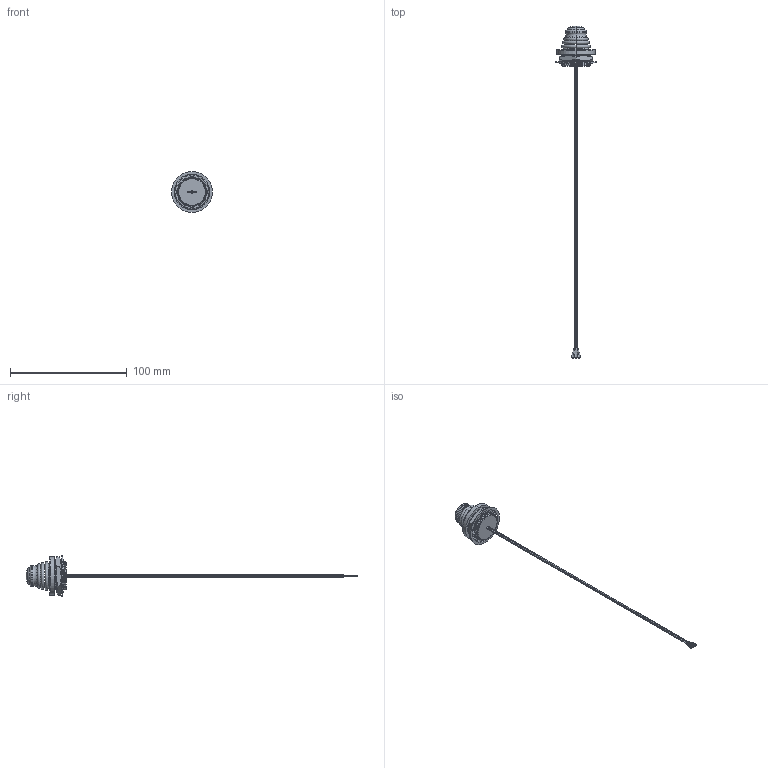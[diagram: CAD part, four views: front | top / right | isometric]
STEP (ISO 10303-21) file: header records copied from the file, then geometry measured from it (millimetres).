
FILE_DESCRIPTION(('FreeCAD Model'),'2;1');
FILE_NAME('Open CASCADE Shape Model','2023-12-11T13:19:29',(''),(''), 'Open CASCADE STEP processor 7.6','FreeCAD','Unknown');
FILE_SCHEMA(('AUTOMOTIVE_DESIGN { 1 0 10303 214 1 1 1 1 }'));
Products named in the file (1): TRY14_X81FXX1
Bounding box: 35.05 x 284.35 x 35.05 mm (x, y, z)
Surface area: 8253 mm2 (no closed solid volume)
Topology: 0 solids, 9 shells, 200 faces, 1869 edges, 5201 vertices
Faces by surface type: bspline 74, cylinder 48, torus 32, cone 24, plane 20, sphere 2
Entity records: 45549 total; most frequent: CARTESIAN_POINT 28637, DIRECTION 2406, B_SPLINE_CURVE_WITH_KNOTS 1337, GEOMETRIC_CURVE_SET 1183, ORIENTED_EDGE 1182, PCURVE 1182, DEFINITIONAL_REPRESENTATION 1182, TRIMMED_CURVE 1182
